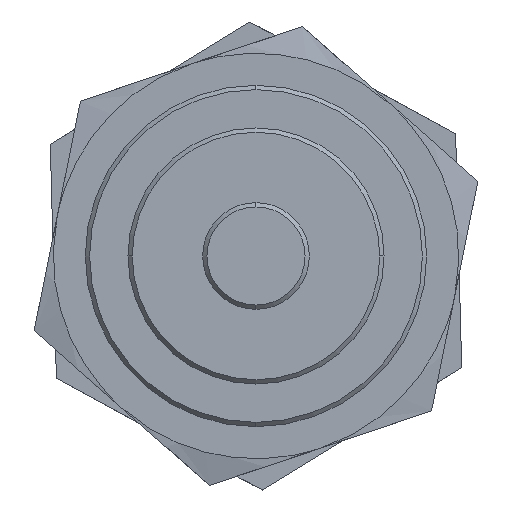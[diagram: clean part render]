
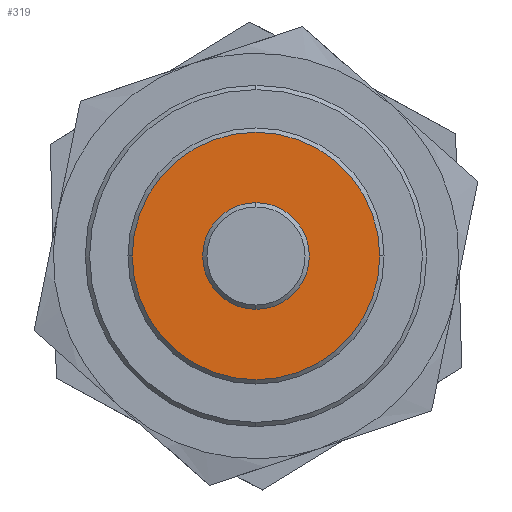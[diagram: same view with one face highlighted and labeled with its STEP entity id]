
A CAD part, left-side view. The second image highlights one B-rep face of the part: STEP entity #319.
In plain terms, the highlighted planar face has unit normal (-1, 0, 0).
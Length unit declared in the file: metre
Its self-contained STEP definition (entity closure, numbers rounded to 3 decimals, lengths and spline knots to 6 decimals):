
#108 = CIRCLE ( 'NONE', #517, 0.0058 ) ;
#157 = CIRCLE ( 'NONE', #770, 0.0025 ) ;
#176 = CIRCLE ( 'NONE', #866, 0.0025 ) ;
#185 = EDGE_CURVE ( 'NONE', #561, #1373, #986, .T. ) ;
#239 = FACE_OUTER_BOUND ( 'NONE', #1279, .T. ) ;
#283 = DIRECTION ( 'NONE',  ( -1., 0., 0. ) ) ;
#319 = ADVANCED_FACE ( 'NONE', ( #807, #239 ), #631, .F. ) ;
#441 = EDGE_CURVE ( 'NONE', #565, #1456, #157, .T. ) ;
#510 = DIRECTION ( 'NONE',  ( -1., 0., 0. ) ) ;
#517 = AXIS2_PLACEMENT_3D ( 'NONE', #1207, #510, #1314 ) ;
#561 = VERTEX_POINT ( 'NONE', #1324 ) ;
#565 = VERTEX_POINT ( 'NONE', #1214 ) ;
#579 = ORIENTED_EDGE ( 'NONE', *, *, #185, .T. ) ;
#631 = PLANE ( 'NONE',  #1187 ) ;
#698 = CARTESIAN_POINT ( 'NONE',  ( 0.012, 0., 0. ) ) ;
#740 = EDGE_CURVE ( 'NONE', #1456, #565, #176, .T. ) ;
#749 = CARTESIAN_POINT ( 'NONE',  ( 0.012, -0.00587, 0.00587 ) ) ;
#753 = DIRECTION ( 'NONE',  ( 1., 0., 0. ) ) ;
#759 = DIRECTION ( 'NONE',  ( 0., 0., -1. ) ) ;
#770 = AXIS2_PLACEMENT_3D ( 'NONE', #1167, #1169, #1275 ) ;
#807 = FACE_BOUND ( 'NONE', #1108, .T. ) ;
#839 = EDGE_CURVE ( 'NONE', #1373, #561, #108, .T. ) ;
#866 = AXIS2_PLACEMENT_3D ( 'NONE', #968, #283, #1083 ) ;
#968 = CARTESIAN_POINT ( 'NONE',  ( 0.012, 0., 0. ) ) ;
#986 = CIRCLE ( 'NONE', #998, 0.0058 ) ;
#998 = AXIS2_PLACEMENT_3D ( 'NONE', #698, #1048, #1259 ) ;
#1014 = CARTESIAN_POINT ( 'NONE',  ( 0.012, 0.0058, 0. ) ) ;
#1029 = CARTESIAN_POINT ( 'NONE',  ( 0.012, 0.0025, 0. ) ) ;
#1035 = ORIENTED_EDGE ( 'NONE', *, *, #839, .T. ) ;
#1048 = DIRECTION ( 'NONE',  ( -1., 0., 0. ) ) ;
#1083 = DIRECTION ( 'NONE',  ( 0., -1., 0. ) ) ;
#1104 = ORIENTED_EDGE ( 'NONE', *, *, #441, .F. ) ;
#1108 = EDGE_LOOP ( 'NONE', ( #1104, #1294 ) ) ;
#1167 = CARTESIAN_POINT ( 'NONE',  ( 0.012, 0., 0. ) ) ;
#1169 = DIRECTION ( 'NONE',  ( -1., 0., 0. ) ) ;
#1187 = AXIS2_PLACEMENT_3D ( 'NONE', #749, #753, #759 ) ;
#1207 = CARTESIAN_POINT ( 'NONE',  ( 0.012, 0., 0. ) ) ;
#1214 = CARTESIAN_POINT ( 'NONE',  ( 0.012, -0.0025, 0. ) ) ;
#1259 = DIRECTION ( 'NONE',  ( 0., 1., 0. ) ) ;
#1275 = DIRECTION ( 'NONE',  ( 0., -1., 0. ) ) ;
#1279 = EDGE_LOOP ( 'NONE', ( #1035, #579 ) ) ;
#1294 = ORIENTED_EDGE ( 'NONE', *, *, #740, .F. ) ;
#1314 = DIRECTION ( 'NONE',  ( 0., 1., 0. ) ) ;
#1324 = CARTESIAN_POINT ( 'NONE',  ( 0.012, -0.0058, 0. ) ) ;
#1373 = VERTEX_POINT ( 'NONE', #1014 ) ;
#1456 = VERTEX_POINT ( 'NONE', #1029 ) ;
